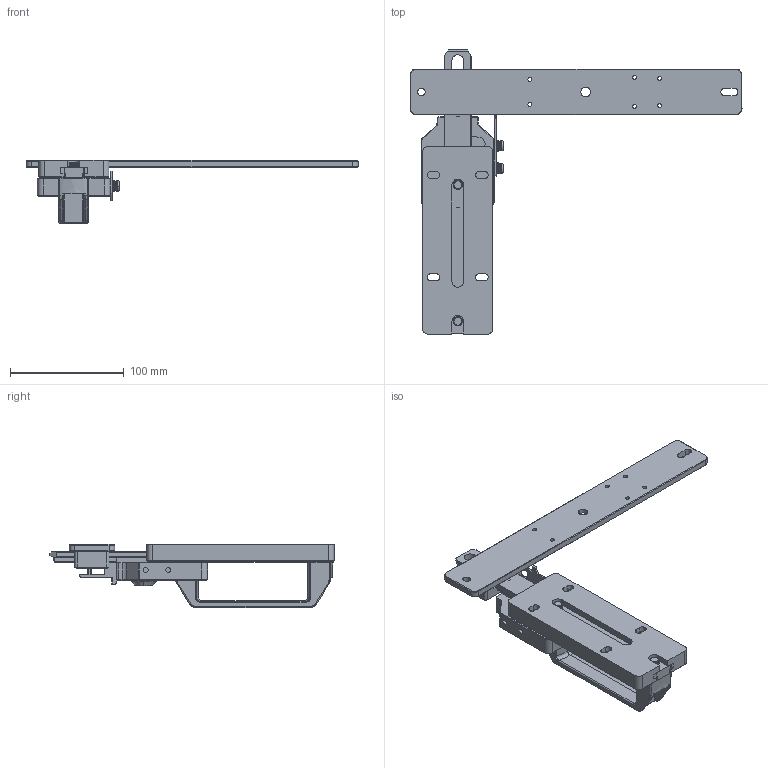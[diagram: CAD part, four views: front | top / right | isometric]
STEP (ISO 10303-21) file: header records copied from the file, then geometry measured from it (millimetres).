
FILE_DESCRIPTION((''),'2;1');
FILE_NAME('SLR11--0100_ASM','2024-08-20T18:58:30',('15807699264'),(''),'CREO PARAMETRIC BY PTC INC, 2022164','CREO PARAMETRIC BY PTC INC, 2022164','');
FILE_SCHEMA(('AUTOMOTIVE_DESIGN { 1 0 10303 214 1 1 1 1 }'));
Length unit declared in the file: millimetre
Products named in the file (5): EMB-R01-0001; EMB-R01-00; 2MM0001; 5_03_01_11_0_0043_0001; SLR11--0100_ASM
Assembly tree (4 placements, depth 2):
  SLR11--0100_ASM
    EMB-R01-0001
    EMB-R01-00
    2MM0001
    5_03_01_11_0_0043_0001
Bounding box: 292 x 250 x 55.45 mm (x, y, z)
Volume: 347870 mm3; surface area: 111475.2 mm2
Topology: 6 solids, 9 shells, 1041 faces, 2591 edges, 1591 vertices
Faces by surface type: plane 434, cylinder 289, cone 210, bspline 88, torus 18, extrusion 2
Entity records: 43671 total; most frequent: CARTESIAN_POINT 19341, ORIENTED_EDGE 5174, DIRECTION 4746, EDGE_CURVE 2587, AXIS2_PLACEMENT_3D 1638, VERTEX_POINT 1591, VECTOR 1470, LINE 1468
